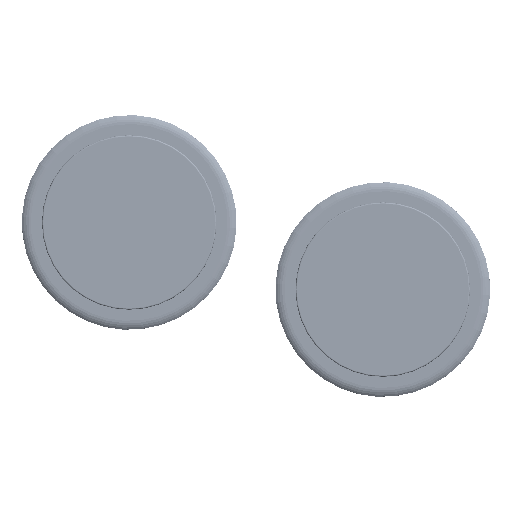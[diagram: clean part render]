
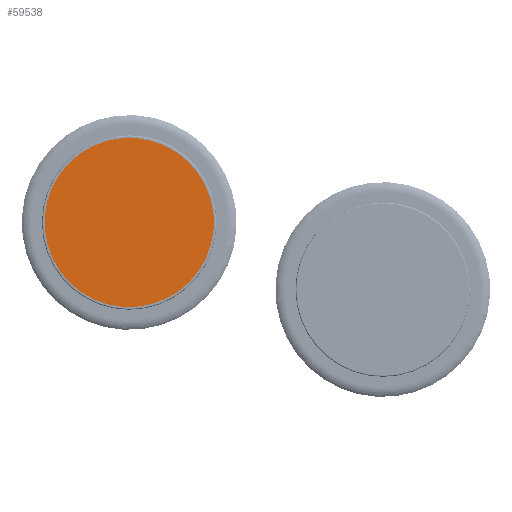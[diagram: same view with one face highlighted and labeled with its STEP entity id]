
A CAD part, front view. The second image highlights one B-rep face of the part: STEP entity #59538.
In plain terms, the highlighted planar face has unit normal (0, -1, 0).
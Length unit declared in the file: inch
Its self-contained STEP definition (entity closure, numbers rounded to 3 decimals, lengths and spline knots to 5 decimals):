
#5739 = PLANE ( 'NONE',  #194393 ) ;
#10324 = AXIS2_PLACEMENT_3D ( 'NONE', #218005, #347501, #109763 ) ;
#32112 = ORIENTED_EDGE ( 'NONE', *, *, #137617, .F. ) ;
#48561 = CIRCLE ( 'NONE', #104532, 6.30315 ) ;
#59067 = DIRECTION ( 'NONE',  ( 1., 0., 0. ) ) ;
#59538 = ADVANCED_FACE ( 'NONE', ( #328638 ), #5739, .F. ) ;
#81810 = VERTEX_POINT ( 'NONE', #280994 ) ;
#86935 = DIRECTION ( 'NONE',  ( 0., 1., 0. ) ) ;
#89186 = CARTESIAN_POINT ( 'NONE',  ( 0., 0., 0. ) ) ;
#104532 = AXIS2_PLACEMENT_3D ( 'NONE', #165039, #86935, #191632 ) ;
#109763 = DIRECTION ( 'NONE',  ( 0., 0., 1. ) ) ;
#137617 = EDGE_CURVE ( 'NONE', #81810, #350688, #48561, .T. ) ;
#163402 = CIRCLE ( 'NONE', #10324, 6.30315 ) ;
#165039 = CARTESIAN_POINT ( 'NONE',  ( 0., 0., 0. ) ) ;
#169488 = EDGE_CURVE ( 'NONE', #350688, #81810, #163402, .T. ) ;
#191632 = DIRECTION ( 'NONE',  ( 0., 0., 1. ) ) ;
#194393 = AXIS2_PLACEMENT_3D ( 'NONE', #89186, #248787, #59067 ) ;
#200584 = ORIENTED_EDGE ( 'NONE', *, *, #169488, .F. ) ;
#218005 = CARTESIAN_POINT ( 'NONE',  ( 0., 0., 0. ) ) ;
#223123 = CARTESIAN_POINT ( 'NONE',  ( 0., 0., 6.30315 ) ) ;
#228313 = EDGE_LOOP ( 'NONE', ( #32112, #200584 ) ) ;
#248787 = DIRECTION ( 'NONE',  ( 0., 1., 0. ) ) ;
#280994 = CARTESIAN_POINT ( 'NONE',  ( 0., 0., -6.30315 ) ) ;
#328638 = FACE_OUTER_BOUND ( 'NONE', #228313, .T. ) ;
#347501 = DIRECTION ( 'NONE',  ( 0., 1., 0. ) ) ;
#350688 = VERTEX_POINT ( 'NONE', #223123 ) ;
